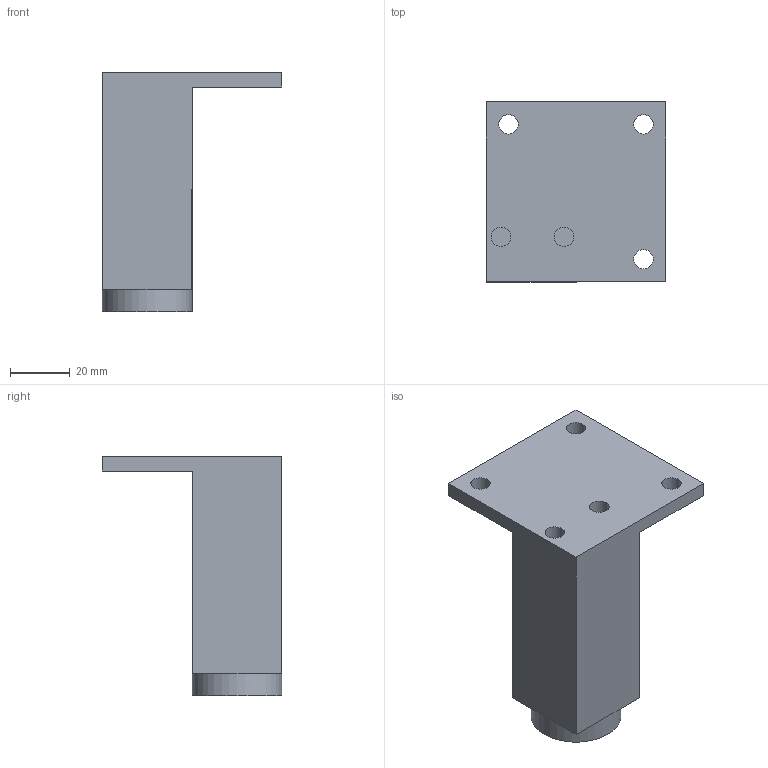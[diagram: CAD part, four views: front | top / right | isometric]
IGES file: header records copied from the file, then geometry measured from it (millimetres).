
Start section: Data from Parasolid IGES Translator 20.0.26, Copyright(c) 2006 Siemens P LM Software. All Rights Reserved.
Global section: file name: 9119445.igs; native system: By Siemens PLM Incorporated; preprocessor: XPlus GENERIC/IGES 20.0.26; author: Noname; organization: Noname; date: 20210125.170407; units: millimetre
Bounding box: 60 x 60 x 80 mm (x, y, z)
Surface area: 17517.9 mm2 (no closed solid volume)
Topology: 0 solids, 0 shells, 21 faces, 92 edges, 83 vertices
Faces by surface type: extrusion 15, revolution 6
